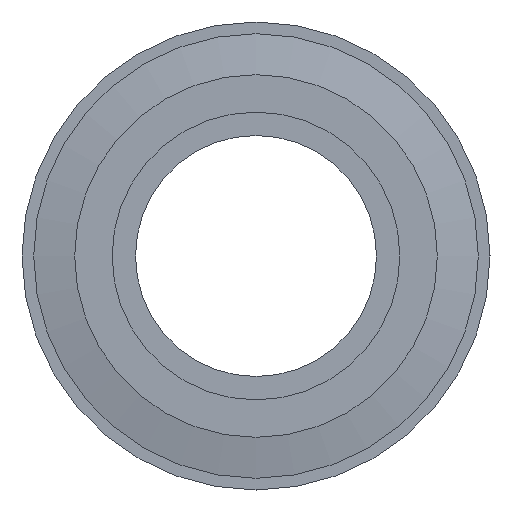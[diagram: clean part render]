
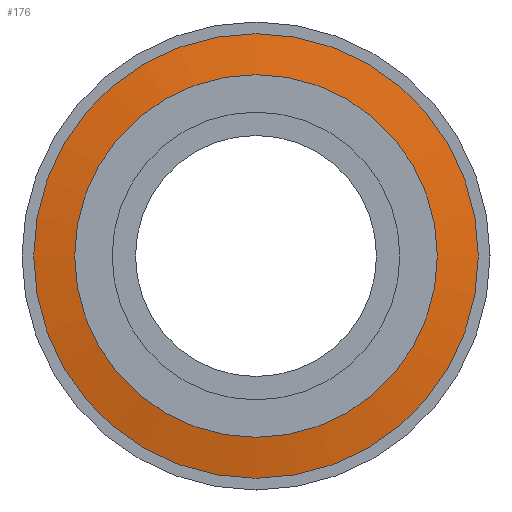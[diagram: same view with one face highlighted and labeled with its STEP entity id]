
A CAD part, front view. The second image highlights one B-rep face of the part: STEP entity #176.
In plain terms, the highlighted conical face has half-angle 80 degrees and reference radius 8.625 mm.
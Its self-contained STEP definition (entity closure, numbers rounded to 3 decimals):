
#142=CARTESIAN_POINT('',(-7.75,-3.2,0.0));
#143=VERTEX_POINT('',#142);
#144=CARTESIAN_POINT('',(0.0,-3.2,0.0));
#145=DIRECTION('',(0.0,1.0,0.0));
#146=DIRECTION('',(-1.0,0.0,0.0));
#147=AXIS2_PLACEMENT_3D('',#144,#145,#146);
#148=CIRCLE('',#147,7.75);
#149=EDGE_CURVE('',#143,#143,#148,.T.);
#157=CARTESIAN_POINT('',(0.0,-3.046,0.0));
#158=DIRECTION('',(0.0,1.0,0.0));
#159=DIRECTION('',(-1.0,0.0,0.0));
#160=AXIS2_PLACEMENT_3D('',#157,#158,#159);
#161=CONICAL_SURFACE('',#160,8.625,80.);
#162=CARTESIAN_POINT('',(-9.5,-2.891,0.0));
#163=VERTEX_POINT('',#162);
#164=CARTESIAN_POINT('',(0.0,-2.891,0.0));
#165=DIRECTION('',(0.0,1.0,0.0));
#166=DIRECTION('',(-1.0,0.0,0.0));
#167=AXIS2_PLACEMENT_3D('',#164,#165,#166);
#168=CIRCLE('',#167,9.5);
#169=EDGE_CURVE('',#163,#163,#168,.T.);
#170=ORIENTED_EDGE('',*,*,#169,.F.);
#171=EDGE_LOOP('',(#170));
#172=FACE_OUTER_BOUND('',#171,.T.);
#173=ORIENTED_EDGE('',*,*,#149,.T.);
#174=EDGE_LOOP('',(#173));
#175=FACE_BOUND('',#174,.T.);
#176=ADVANCED_FACE('',(#172,#175),#161,.T.);
